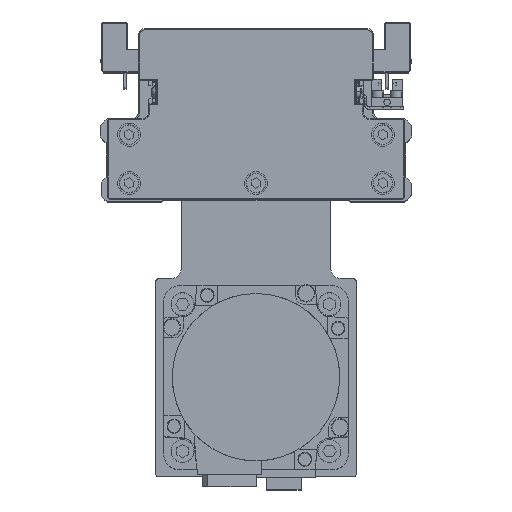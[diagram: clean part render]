
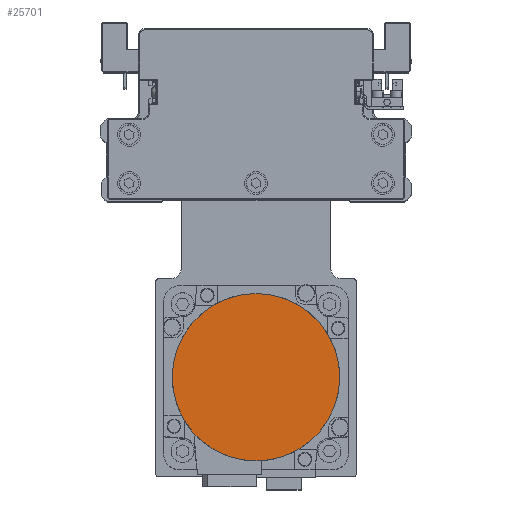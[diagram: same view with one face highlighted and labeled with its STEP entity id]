
A CAD part, top view. The second image highlights one B-rep face of the part: STEP entity #25701.
In plain terms, the highlighted planar face has unit normal (0, 0, 1) as drawn and (0, 0, -1) by its records, which use the part's own axes.
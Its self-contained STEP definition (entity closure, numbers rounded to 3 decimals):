
#708 = DIRECTION ( 'NONE',  ( 0., 0., 1. ) ) ;
#1605 = AXIS2_PLACEMENT_3D ( 'NONE', #29166, #2035, #14113 ) ;
#2035 = DIRECTION ( 'NONE',  ( 0., 0., 1. ) ) ;
#2938 = DIRECTION ( 'NONE',  ( 1., 0., 0. ) ) ;
#5891 = PLANE ( 'NONE',  #12415 ) ;
#8160 = EDGE_CURVE ( 'NONE', #22241, #9529, #38118, .T. ) ;
#9529 = VERTEX_POINT ( 'NONE', #15414 ) ;
#12062 = CARTESIAN_POINT ( 'NONE',  ( 0., -36.3, -122.2 ) ) ;
#12415 = AXIS2_PLACEMENT_3D ( 'NONE', #17967, #30058, #2938 ) ;
#12784 = DIRECTION ( 'NONE',  ( 0., -1., 0. ) ) ;
#14113 = DIRECTION ( 'NONE',  ( 0., 1., 0. ) ) ;
#15414 = CARTESIAN_POINT ( 'NONE',  ( 0., 36.3, -122.2 ) ) ;
#17851 = ORIENTED_EDGE ( 'NONE', *, *, #8160, .F. ) ;
#17967 = CARTESIAN_POINT ( 'NONE',  ( 0., 0., -122.2 ) ) ;
#18391 = EDGE_CURVE ( 'NONE', #9529, #22241, #18670, .T. ) ;
#18670 = CIRCLE ( 'NONE', #1605, 36.3 ) ;
#20550 = ORIENTED_EDGE ( 'NONE', *, *, #18391, .F. ) ;
#21090 = AXIS2_PLACEMENT_3D ( 'NONE', #27825, #708, #12784 ) ;
#22241 = VERTEX_POINT ( 'NONE', #12062 ) ;
#25701 = ADVANCED_FACE ( 'NONE', ( #33039 ), #5891, .F. ) ;
#27825 = CARTESIAN_POINT ( 'NONE',  ( 0., 0., -122.2 ) ) ;
#29166 = CARTESIAN_POINT ( 'NONE',  ( 0., 0., -122.2 ) ) ;
#30058 = DIRECTION ( 'NONE',  ( 0., 0., 1. ) ) ;
#33039 = FACE_OUTER_BOUND ( 'NONE', #35787, .T. ) ;
#35787 = EDGE_LOOP ( 'NONE', ( #20550, #17851 ) ) ;
#38118 = CIRCLE ( 'NONE', #21090, 36.3 ) ;
